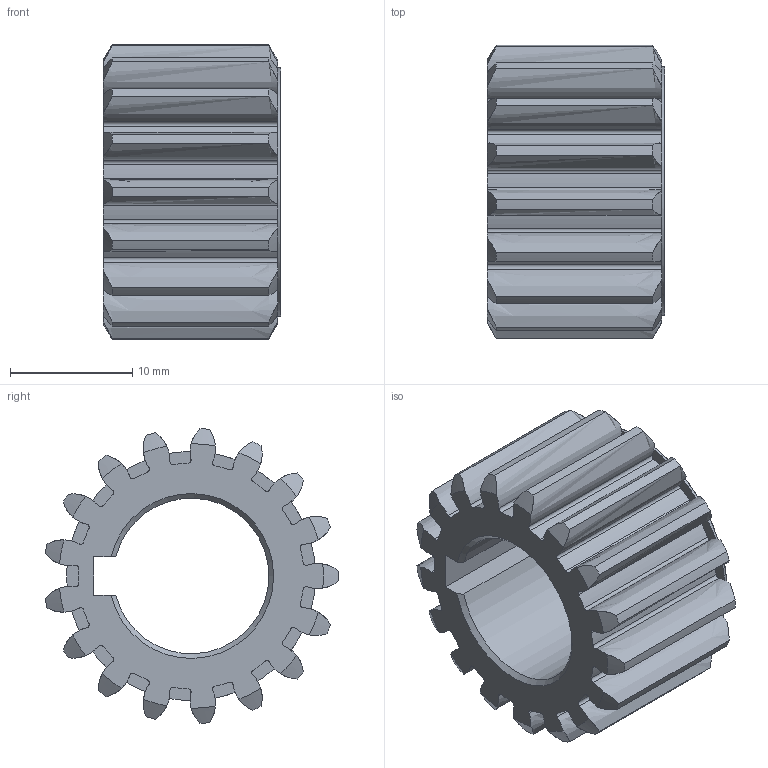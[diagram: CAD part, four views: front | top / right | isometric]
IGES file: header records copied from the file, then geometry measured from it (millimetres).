
Global section: file name: No Iges File Name specified; native system: AutoDesk Inventor R6.0; preprocessor: AutoDesk Inventor Iges Exporter R6.0; author: No Author specified; organization: No Organization specified; date: 20080103.185700; units: inch
Bounding box: 14.48 x 23.99 x 24.09 mm (x, y, z)
Surface area: 3101.8 mm2 (no closed solid volume)
Topology: 0 solids, 0 shells, 179 faces, 992 edges, 991 vertices
Faces by surface type: revolution 140, plane 39
